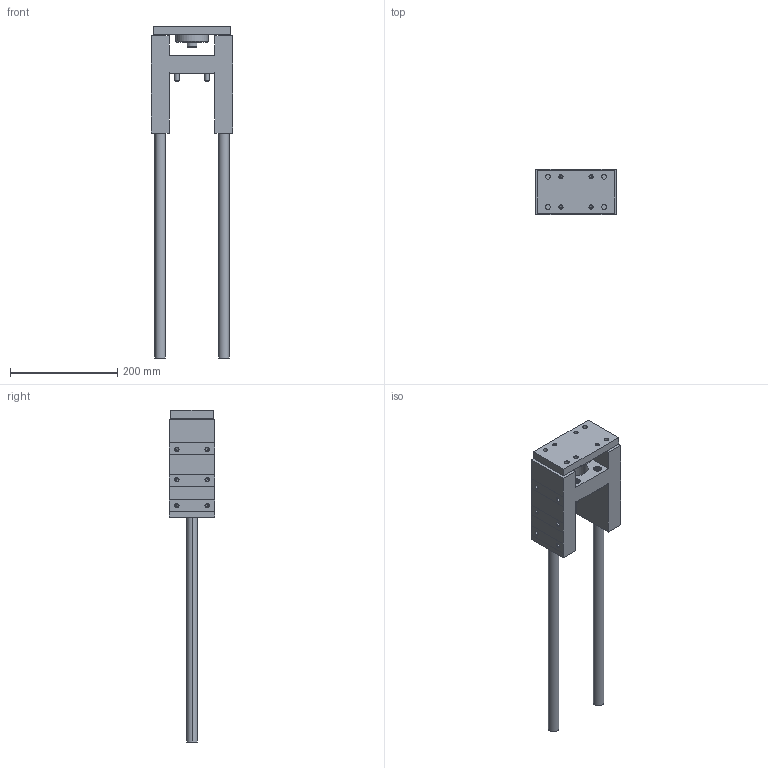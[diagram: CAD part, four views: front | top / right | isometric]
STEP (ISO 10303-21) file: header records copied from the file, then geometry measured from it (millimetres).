
FILE_DESCRIPTION (( 'STEP AP203' ), '1' );
FILE_NAME ('GB63-400.STEP', '2020-04-24T13:24:21', ( '' ), ( '' ), 'SwSTEP 2.0', 'SolidWorks 2019', '' );
FILE_SCHEMA (( 'CONFIG_CONTROL_DESIGN' ));
Length unit declared in the file: millimetre
Products named in the file (1): GB63-400
Bounding box: 152 x 85 x 620 mm (x, y, z)
Volume: 1676205.5 mm3; surface area: 264470.8 mm2
Topology: 6 solids, 6 shells, 363 faces, 814 edges, 462 vertices
Faces by surface type: cone 146, plane 115, cylinder 102
Entity records: 10453 total; most frequent: CARTESIAN_POINT 2284, DIRECTION 1812, ORIENTED_EDGE 1556, EDGE_CURVE 778, AXIS2_PLACEMENT_3D 702, VERTEX_POINT 462, EDGE_LOOP 428, LINE 408
